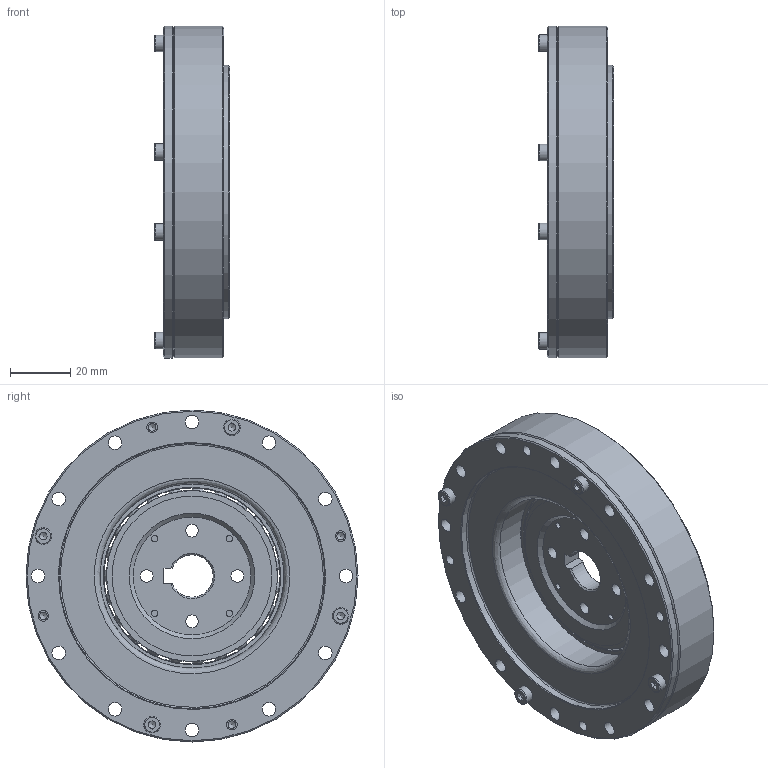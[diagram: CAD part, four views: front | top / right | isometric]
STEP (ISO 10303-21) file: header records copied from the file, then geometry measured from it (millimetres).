
FILE_DESCRIPTION (( 'STEP AP203' ), '1' );
FILE_NAME ('LHD-25-XXX-C-I.STEP', '2025-01-08T10:32:22', ( '' ), ( '' ), 'SwSTEP 2.0', 'SolidWorks 2023', '' );
FILE_SCHEMA (( 'CONFIG_CONTROL_DESIGN' ));
Length unit declared in the file: metre
Products named in the file (1): LHD-25-XXX-C-I
Bounding box: 25 x 110 x 110 mm (x, y, z)
Volume: 118911.1 mm3; surface area: 96641.9 mm2
Topology: 47 solids, 47 shells, 744 faces, 1780 edges, 1117 vertices
Faces by surface type: plane 338, cylinder 220, cone 115, bspline 71
Full cylindrical faces by diameter (mm): 2.05 x4, 2.5 x18, 2.9 x4, 3 x10, 3.3 x12, 3.4 x6, 3.5 x8, 4.2 x4, 4.5 x36, 4.7 x4, 5.4 x4, 5.5 x10, 6 x6, 24 x2, 42 x2, 44.2 x1, 45.22 x1, 45.5 x1, 47 x2, 48.39 x2, 50.1 x1, 53 x1, 56.6 x1, 58.356 x2, 61.148 x1, 61.32 x1, 62.148 x1, 62.838 x1, 64.006 x1, 65.8 x1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
Entity records: 23121 total; most frequent: CARTESIAN_POINT 7624, DIRECTION 3278, ORIENTED_EDGE 2692, AXIS2_PLACEMENT_3D 1396, EDGE_CURVE 1346, EDGE_LOOP 1208, VERTEX_POINT 1008, FACE_OUTER_BOUND 942
